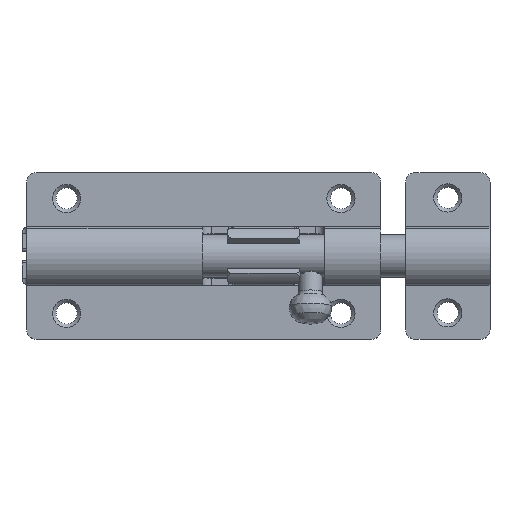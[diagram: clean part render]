
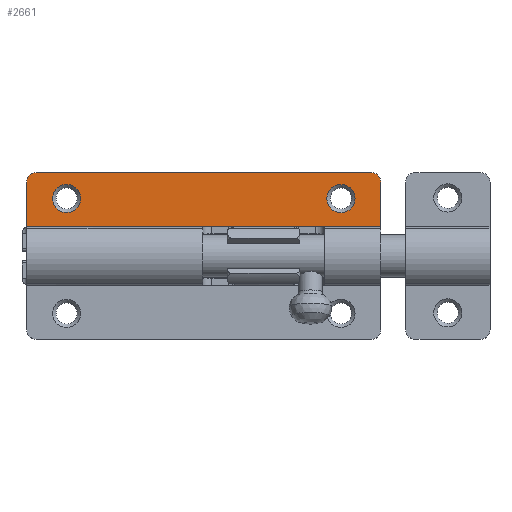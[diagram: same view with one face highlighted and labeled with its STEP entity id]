
A CAD part, top view. The second image highlights one B-rep face of the part: STEP entity #2661.
In plain terms, the highlighted planar face has unit normal (0, 0, 1) as drawn and (0, 1, 0) by its records, which use the part's own axes.
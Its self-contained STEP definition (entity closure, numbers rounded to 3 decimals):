
#67=FACE_BOUND('',#399,.T.);
#68=FACE_BOUND('',#400,.T.);
#127=PLANE('',#2906);
#238=FACE_OUTER_BOUND('',#398,.T.);
#398=EDGE_LOOP('',(#2218,#2219,#2220,#2221,#2222,#2223));
#399=EDGE_LOOP('',(#2224));
#400=EDGE_LOOP('',(#2225));
#539=CIRCLE('',#2870,3.);
#545=CIRCLE('',#2880,3.);
#548=CIRCLE('',#2885,2.);
#551=CIRCLE('',#2891,2.);
#660=LINE('',#4093,#850);
#746=LINE('',#4654,#936);
#758=LINE('',#4692,#948);
#759=LINE('',#4694,#949);
#850=VECTOR('',#3162,10.424);
#936=VECTOR('',#3494,71.5);
#948=VECTOR('',#3538,75.5);
#949=VECTOR('',#3541,10.424);
#1108=VERTEX_POINT('',#4090);
#1109=VERTEX_POINT('',#4092);
#1209=VERTEX_POINT('',#4615);
#1215=VERTEX_POINT('',#4631);
#1218=VERTEX_POINT('',#4639);
#1223=VERTEX_POINT('',#4653);
#1224=VERTEX_POINT('',#4657);
#1233=VERTEX_POINT('',#4690);
#1397=EDGE_CURVE('',#1109,#1108,#660,.T.);
#1553=EDGE_CURVE('',#1209,#1209,#539,.T.);
#1559=EDGE_CURVE('',#1215,#1215,#545,.T.);
#1562=EDGE_CURVE('',#1109,#1218,#548,.T.);
#1569=EDGE_CURVE('',#1223,#1218,#746,.T.);
#1571=EDGE_CURVE('',#1223,#1224,#551,.T.);
#1588=EDGE_CURVE('',#1233,#1108,#758,.T.);
#1589=EDGE_CURVE('',#1233,#1224,#759,.T.);
#2218=ORIENTED_EDGE('',*,*,#1562,.F.);
#2219=ORIENTED_EDGE('',*,*,#1397,.T.);
#2220=ORIENTED_EDGE('',*,*,#1588,.F.);
#2221=ORIENTED_EDGE('',*,*,#1589,.T.);
#2222=ORIENTED_EDGE('',*,*,#1571,.F.);
#2223=ORIENTED_EDGE('',*,*,#1569,.T.);
#2224=ORIENTED_EDGE('',*,*,#1553,.T.);
#2225=ORIENTED_EDGE('',*,*,#1559,.T.);
#2661=ADVANCED_FACE('',(#238,#67,#68),#127,.F.);
#2870=AXIS2_PLACEMENT_3D('',#4616,#3450,#3451);
#2880=AXIS2_PLACEMENT_3D('',#4632,#3470,#3471);
#2885=AXIS2_PLACEMENT_3D('',#4640,#3480,#3481);
#2891=AXIS2_PLACEMENT_3D('',#4658,#3498,#3499);
#2906=AXIS2_PLACEMENT_3D('',#4693,#3539,#3540);
#3162=DIRECTION('',(-1.,0.,0.));
#3450=DIRECTION('center_axis',(0.,-1.,0.));
#3451=DIRECTION('ref_axis',(1.,0.,0.));
#3470=DIRECTION('center_axis',(0.,-1.,0.));
#3471=DIRECTION('ref_axis',(1.,0.,0.));
#3480=DIRECTION('center_axis',(0.,-1.,0.));
#3481=DIRECTION('ref_axis',(0.707,0.,-0.707));
#3494=DIRECTION('',(0.,0.,-1.));
#3498=DIRECTION('center_axis',(0.,-1.,0.));
#3499=DIRECTION('ref_axis',(0.707,0.,0.707));
#3538=DIRECTION('',(0.,0.,-1.));
#3539=DIRECTION('center_axis',(0.,-1.,0.));
#3540=DIRECTION('ref_axis',(1.,0.,0.));
#3541=DIRECTION('',(1.,0.,0.));
#4090=CARTESIAN_POINT('',(5.326,1.5,-37.75));
#4092=CARTESIAN_POINT('',(15.75,1.5,-37.75));
#4093=CARTESIAN_POINT('',(17.75,1.5,-37.75));
#4615=CARTESIAN_POINT('',(15.25,1.5,-29.25));
#4616=CARTESIAN_POINT('Origin',(12.25,1.5,-29.25));
#4631=CARTESIAN_POINT('',(15.25,1.5,29.25));
#4632=CARTESIAN_POINT('Origin',(12.25,1.5,29.25));
#4639=CARTESIAN_POINT('',(17.75,1.5,-35.75));
#4640=CARTESIAN_POINT('Origin',(15.75,1.5,-35.75));
#4653=CARTESIAN_POINT('',(17.75,1.5,35.75));
#4654=CARTESIAN_POINT('',(17.75,1.5,0.));
#4657=CARTESIAN_POINT('',(15.75,1.5,37.75));
#4658=CARTESIAN_POINT('Origin',(15.75,1.5,35.75));
#4690=CARTESIAN_POINT('',(5.326,1.5,37.75));
#4692=CARTESIAN_POINT('',(5.326,1.5,0.));
#4693=CARTESIAN_POINT('Origin',(5.326,1.5,0.));
#4694=CARTESIAN_POINT('',(17.75,1.5,37.75));
